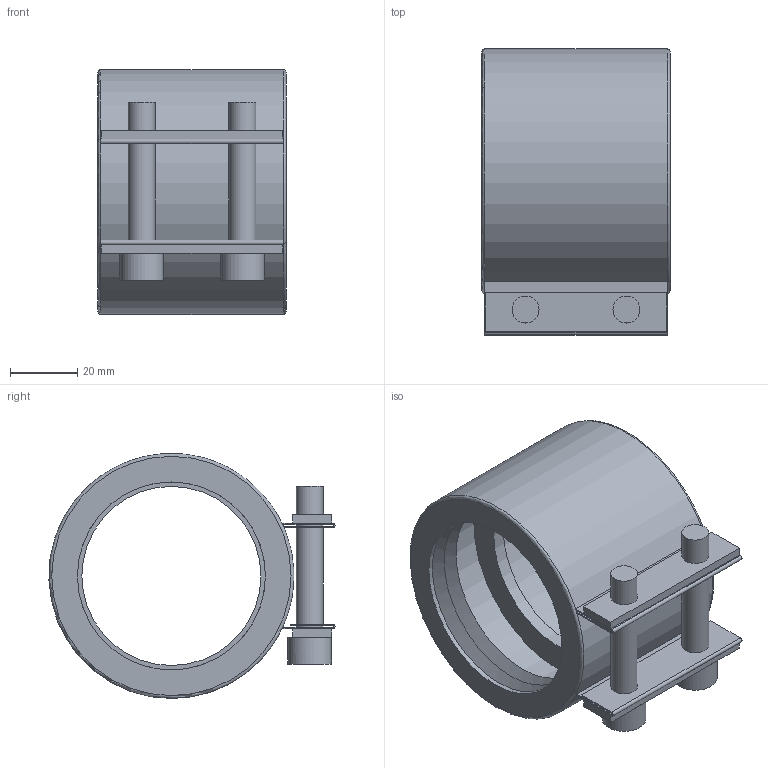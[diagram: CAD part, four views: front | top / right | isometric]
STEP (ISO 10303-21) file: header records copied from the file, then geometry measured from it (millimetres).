
FILE_DESCRIPTION( ( 'STEP AP214' ), '1' );
FILE_NAME( 'C:/Users/ilukic/Documents/ex/gebaudeentwasserung/pe/Geberit adapter clamping connector/359426.stp', '2020-03-26T18:41:13', ( '' ), ( '' ), ' ', 'PARTsolutions', ' ' );
FILE_SCHEMA( ( 'AUTOMOTIVE_DESIGN { 1 0 10303 214 1 1 1 1 }' ) );
Length unit declared in the file: millimetre
Products named in the file (1): _359426
Bounding box: 56 x 85.23 x 72.98 mm (x, y, z)
Volume: 52166.9 mm3; surface area: 52709.1 mm2
Topology: 1 solids, 1 shells, 91 faces, 221 edges, 144 vertices
Faces by surface type: plane 63, cylinder 22, cone 4, torus 2
Full cylindrical faces by diameter (mm): 8 x8, 13 x2, 53.333 x1, 56 x2, 70.058 x2
Entity records: 3194 total; most frequent: CARTESIAN_POINT 428, DIRECTION 424, ORIENTED_EDGE 368, EDGE_CURVE 184, AXIS2_PLACEMENT_3D 156, EDGE_LOOP 140, VERTEX_POINT 128, LINE 112
